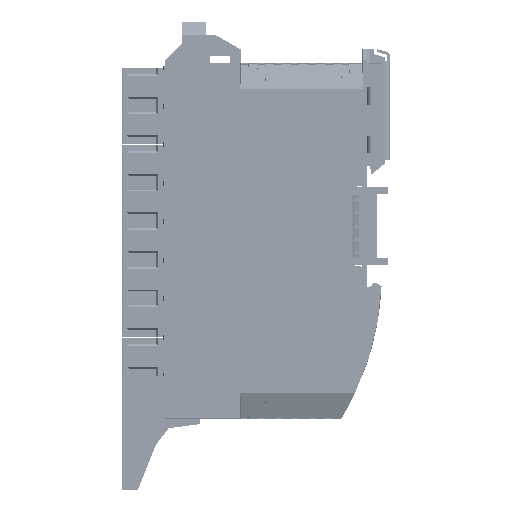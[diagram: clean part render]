
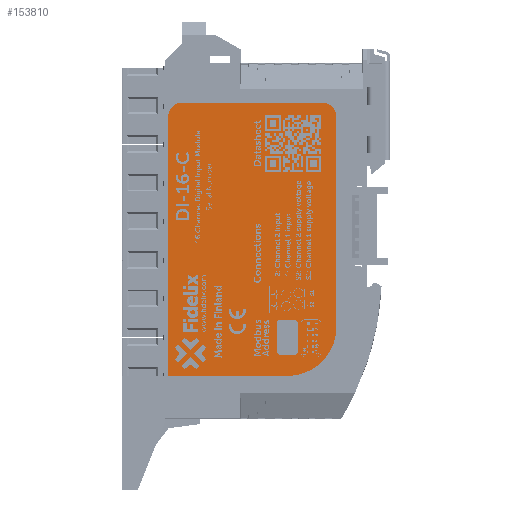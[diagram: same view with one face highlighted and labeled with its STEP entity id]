
A CAD part, left-side view. The second image highlights one B-rep face of the part: STEP entity #153810.
In plain terms, the highlighted planar face has unit normal (-1, 0, 0).
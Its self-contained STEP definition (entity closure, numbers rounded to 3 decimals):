
#1835=CIRCLE('',#162339,1.);
#1837=CIRCLE('',#162343,1.);
#1839=CIRCLE('',#162347,1.);
#1841=CIRCLE('',#162351,1.);
#1843=CIRCLE('',#162356,4.);
#1845=CIRCLE('',#162360,4.);
#1847=CIRCLE('',#162364,14.);
#6331=FACE_BOUND('',#17390,.T.);
#9152=FACE_OUTER_BOUND('',#17389,.T.);
#17389=EDGE_LOOP('',(#104526,#104527,#104528,#104529,#104530,#104531,#104532));
#17390=EDGE_LOOP('',(#104533,#104534,#104535,#104536,#104537,#104538,#104539,
#104540));
#27815=LINE('',#262163,#45063);
#27819=LINE('',#262175,#45067);
#27823=LINE('',#262187,#45071);
#27827=LINE('',#262199,#45075);
#27831=LINE('',#262211,#45079);
#27834=LINE('',#262217,#45082);
#27838=LINE('',#262229,#45086);
#27842=LINE('',#262241,#45090);
#45063=VECTOR('',#177745,1000.);
#45067=VECTOR('',#177757,1000.);
#45071=VECTOR('',#177769,1000.);
#45075=VECTOR('',#177781,1000.);
#45079=VECTOR('',#177793,1000.);
#45082=VECTOR('',#177798,1000.);
#45086=VECTOR('',#177810,1000.);
#45090=VECTOR('',#177822,1000.);
#61760=VERTEX_POINT('',#262160);
#61761=VERTEX_POINT('',#262162);
#61763=VERTEX_POINT('',#262168);
#61765=VERTEX_POINT('',#262174);
#61767=VERTEX_POINT('',#262180);
#61769=VERTEX_POINT('',#262186);
#61771=VERTEX_POINT('',#262192);
#61773=VERTEX_POINT('',#262198);
#61776=VERTEX_POINT('',#262208);
#61777=VERTEX_POINT('',#262210);
#61779=VERTEX_POINT('',#262216);
#61781=VERTEX_POINT('',#262222);
#61783=VERTEX_POINT('',#262228);
#61785=VERTEX_POINT('',#262234);
#61787=VERTEX_POINT('',#262240);
#77818=EDGE_CURVE('',#61761,#61760,#27815,.T.);
#77821=EDGE_CURVE('',#61763,#61761,#1835,.T.);
#77824=EDGE_CURVE('',#61765,#61763,#27819,.T.);
#77827=EDGE_CURVE('',#61767,#61765,#1837,.T.);
#77830=EDGE_CURVE('',#61769,#61767,#27823,.T.);
#77833=EDGE_CURVE('',#61771,#61769,#1839,.T.);
#77836=EDGE_CURVE('',#61773,#61771,#27827,.T.);
#77839=EDGE_CURVE('',#61760,#61773,#1841,.T.);
#77842=EDGE_CURVE('',#61777,#61776,#27831,.T.);
#77845=EDGE_CURVE('',#61779,#61777,#27834,.T.);
#77848=EDGE_CURVE('',#61781,#61779,#1843,.T.);
#77851=EDGE_CURVE('',#61783,#61781,#27838,.T.);
#77854=EDGE_CURVE('',#61785,#61783,#1845,.T.);
#77857=EDGE_CURVE('',#61787,#61785,#27842,.T.);
#77860=EDGE_CURVE('',#61776,#61787,#1847,.T.);
#104526=ORIENTED_EDGE('',*,*,#77860,.T.);
#104527=ORIENTED_EDGE('',*,*,#77857,.T.);
#104528=ORIENTED_EDGE('',*,*,#77854,.T.);
#104529=ORIENTED_EDGE('',*,*,#77851,.T.);
#104530=ORIENTED_EDGE('',*,*,#77848,.T.);
#104531=ORIENTED_EDGE('',*,*,#77845,.T.);
#104532=ORIENTED_EDGE('',*,*,#77842,.T.);
#104533=ORIENTED_EDGE('',*,*,#77839,.T.);
#104534=ORIENTED_EDGE('',*,*,#77836,.T.);
#104535=ORIENTED_EDGE('',*,*,#77833,.T.);
#104536=ORIENTED_EDGE('',*,*,#77830,.T.);
#104537=ORIENTED_EDGE('',*,*,#77827,.T.);
#104538=ORIENTED_EDGE('',*,*,#77824,.T.);
#104539=ORIENTED_EDGE('',*,*,#77821,.T.);
#104540=ORIENTED_EDGE('',*,*,#77818,.T.);
#138566=PLANE('',#162365);
#153810=ADVANCED_FACE('',(#9152,#6331),#138566,.T.);
#162339=AXIS2_PLACEMENT_3D('',#262169,#177751,#177752);
#162343=AXIS2_PLACEMENT_3D('',#262181,#177763,#177764);
#162347=AXIS2_PLACEMENT_3D('',#262193,#177775,#177776);
#162351=AXIS2_PLACEMENT_3D('',#262203,#177787,#177788);
#162356=AXIS2_PLACEMENT_3D('',#262223,#177804,#177805);
#162360=AXIS2_PLACEMENT_3D('',#262235,#177816,#177817);
#162364=AXIS2_PLACEMENT_3D('',#262245,#177828,#177829);
#162365=AXIS2_PLACEMENT_3D('',#262246,#177830,#177831);
#177745=DIRECTION('',(0.,0.,-1.));
#177751=DIRECTION('center_axis',(1.,0.,0.));
#177752=DIRECTION('ref_axis',(0.,-1.,0.));
#177757=DIRECTION('',(0.,-1.,0.));
#177763=DIRECTION('center_axis',(1.,0.,0.));
#177764=DIRECTION('ref_axis',(0.,0.,
1.));
#177769=DIRECTION('',(0.,0.,1.));
#177775=DIRECTION('center_axis',(1.,0.,0.));
#177776=DIRECTION('ref_axis',(0.,1.,0.));
#177781=DIRECTION('',(0.,1.,0.));
#177787=DIRECTION('center_axis',(1.,0.,0.));
#177788=DIRECTION('ref_axis',(0.,0.,
-1.));
#177793=DIRECTION('',(0.,-1.,0.));
#177798=DIRECTION('',(0.,0.,-1.));
#177804=DIRECTION('center_axis',(-1.,0.,0.));
#177805=DIRECTION('ref_axis',(0.,0.,
1.));
#177810=DIRECTION('',(0.,1.,0.));
#177816=DIRECTION('center_axis',(-1.,0.,0.));
#177817=DIRECTION('ref_axis',(0.,-1.,0.));
#177822=DIRECTION('',(0.,0.,1.));
#177828=DIRECTION('center_axis',(-1.,0.,0.));
#177829=DIRECTION('ref_axis',(0.,0.,
-1.));
#177830=DIRECTION('center_axis',(-1.,0.,0.));
#177831=DIRECTION('ref_axis',(0.,-1.,0.));
#262160=CARTESIAN_POINT('',(-9.55,19.7,-94.02));
#262162=CARTESIAN_POINT('',(-9.55,19.7,-86.02));
#262163=CARTESIAN_POINT('',(-9.55,19.7,-94.02));
#262168=CARTESIAN_POINT('',(-9.55,20.7,-85.02));
#262169=CARTESIAN_POINT('Origin',(-9.55,20.7,-86.02));
#262174=CARTESIAN_POINT('',(-9.55,24.7,-85.02));
#262175=CARTESIAN_POINT('',(-9.55,20.7,-85.02));
#262180=CARTESIAN_POINT('',(-9.55,25.7,-86.02));
#262181=CARTESIAN_POINT('Origin',(-9.55,24.7,-86.02));
#262186=CARTESIAN_POINT('',(-9.55,25.7,-94.02));
#262187=CARTESIAN_POINT('',(-9.55,25.7,-86.02));
#262192=CARTESIAN_POINT('',(-9.55,24.7,-95.02));
#262193=CARTESIAN_POINT('Origin',(-9.55,24.7,-94.02));
#262198=CARTESIAN_POINT('',(-9.55,20.7,-95.02));
#262199=CARTESIAN_POINT('',(-9.55,24.7,-95.02));
#262203=CARTESIAN_POINT('Origin',(-9.55,20.7,-94.02));
#262208=CARTESIAN_POINT('',(-9.55,22.7,-101.02));
#262210=CARTESIAN_POINT('',(-9.55,56.7,-101.02));
#262211=CARTESIAN_POINT('',(-9.55,56.7,-101.02));
#262216=CARTESIAN_POINT('',(-9.55,56.7,-27.02));
#262217=CARTESIAN_POINT('',(-9.55,56.7,-27.02));
#262222=CARTESIAN_POINT('',(-9.55,52.7,-23.02));
#262223=CARTESIAN_POINT('Origin',(-9.55,52.7,-27.02));
#262228=CARTESIAN_POINT('',(-9.55,12.7,-23.02));
#262229=CARTESIAN_POINT('',(-9.55,12.7,-23.02));
#262234=CARTESIAN_POINT('',(-9.55,8.7,-27.02));
#262235=CARTESIAN_POINT('Origin',(-9.55,12.7,-27.02));
#262240=CARTESIAN_POINT('',(-9.55,8.7,-87.02));
#262241=CARTESIAN_POINT('',(-9.55,8.7,-87.02));
#262245=CARTESIAN_POINT('Origin',(-9.55,22.7,-87.02));
#262246=CARTESIAN_POINT('Origin',(-9.55,32.7,-62.02));
